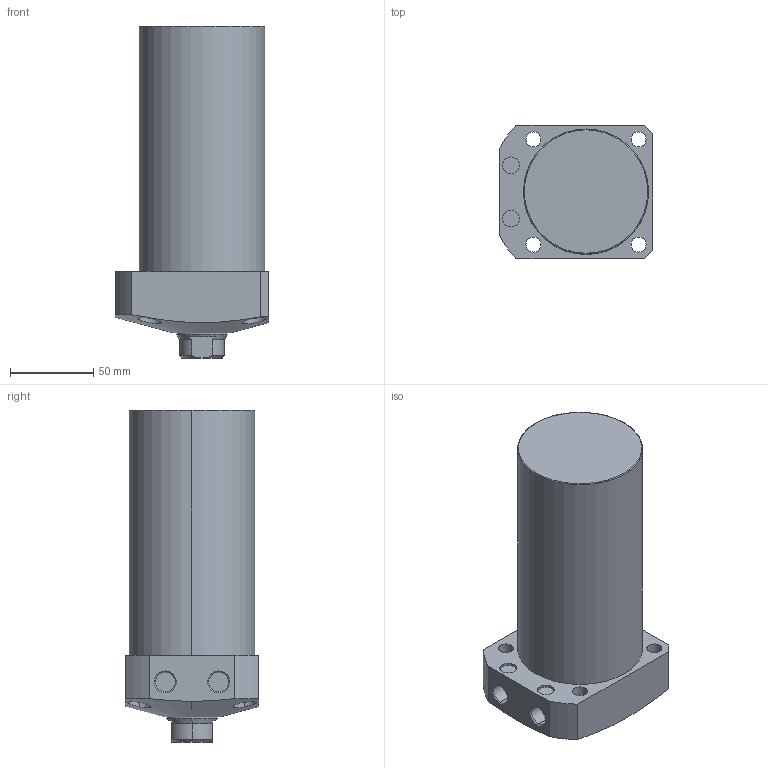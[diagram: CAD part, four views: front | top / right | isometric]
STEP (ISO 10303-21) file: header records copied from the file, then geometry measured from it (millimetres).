
FILE_DESCRIPTION (( 'STEP AP203' ), '1' );
FILE_NAME ('CLL-075CA-110.STEP', '2019-12-23T08:46:07', ( '' ), ( '' ), 'SwSTEP 2.0', 'SolidWorks 2015', '' );
FILE_SCHEMA (( 'CONFIG_CONTROL_DESIGN' ));
Length unit declared in the file: millimetre
Products named in the file (1): CLL-075CA-110
Bounding box: 92 x 80 x 199 mm (x, y, z)
Volume: 868484.1 mm3; surface area: 66970.4 mm2
Topology: 1 solids, 1 shells, 74 faces, 171 edges, 108 vertices
Faces by surface type: cylinder 35, plane 22, cone 15, torus 2
Entity records: 2610 total; most frequent: CARTESIAN_POINT 815, DIRECTION 376, ORIENTED_EDGE 338, EDGE_CURVE 169, AXIS2_PLACEMENT_3D 156, VERTEX_POINT 108, EDGE_LOOP 93, CIRCLE 81
